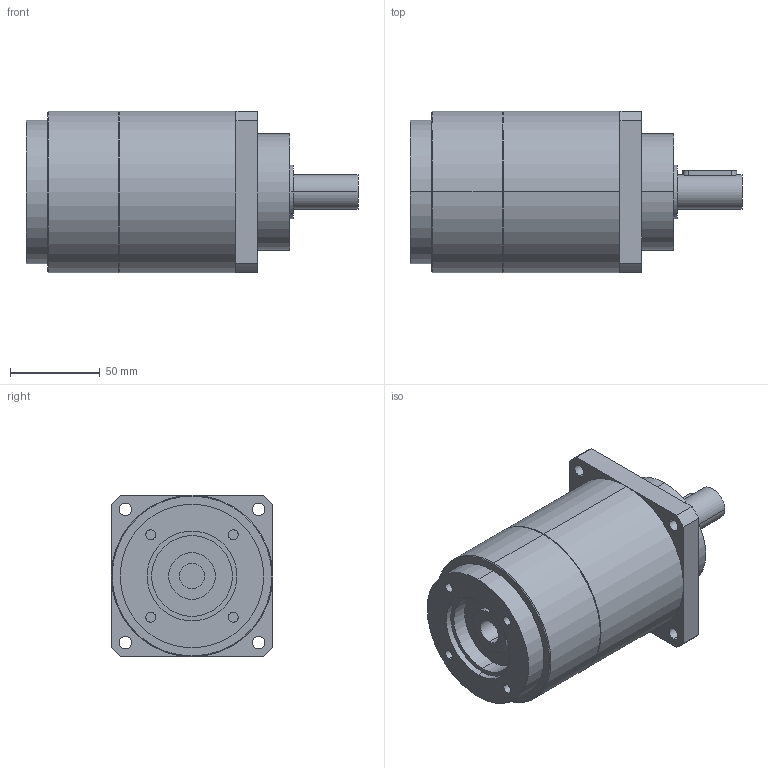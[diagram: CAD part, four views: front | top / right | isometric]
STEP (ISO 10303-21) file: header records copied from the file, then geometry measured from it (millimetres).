
FILE_DESCRIPTION(('CoCreate Modeling STEP Export'),'2;1');
FILE_NAME('GPT90_ig-9-12-16-20-25-28-35-40-50-70-100_19_B5T_14_P10.stp','2015-02-04T11:29:13',(''),(''),'CoCreate Modeling STEP processor for AP214 (Solid Model)','CoCreate Modeling 16.00C 25-Feb-2009 (C) Parametric Technology GmbH','');
FILE_SCHEMA(('AUTOMOTIVE_DESIGN { 1 0 10303 214 1 1 1 1 }'));
Length unit declared in the file: millimetre
Products named in the file (2): GPT90_ig-9-12-16-20-25-28-35-40-50-70-100_19_B5T_14_P10
Assembly tree (1 placements, depth 2):
  GPT90_ig-9-12-16-20-25-28-35-40-50-70-100_19_B5T_14_P10
    GPT90_ig-9-12-16-20-25-28-35-40-50-70-100_19_B5T_14_P10
Bounding box: 185 x 90 x 90 mm (x, y, z)
Volume: 868961.4 mm3; surface area: 64701.1 mm2
Topology: 1 solids, 1 shells, 75 faces, 190 edges, 131 vertices
Faces by surface type: cylinder 44, plane 27, cone 4
Entity records: 2388 total; most frequent: CARTESIAN_POINT 704, ORIENTED_EDGE 380, DIRECTION 282, EDGE_CURVE 190, VERTEX_POINT 131, AXIS2_PLACEMENT_3D 106, EDGE_LOOP 97, FACE_OUTER_BOUND 75
